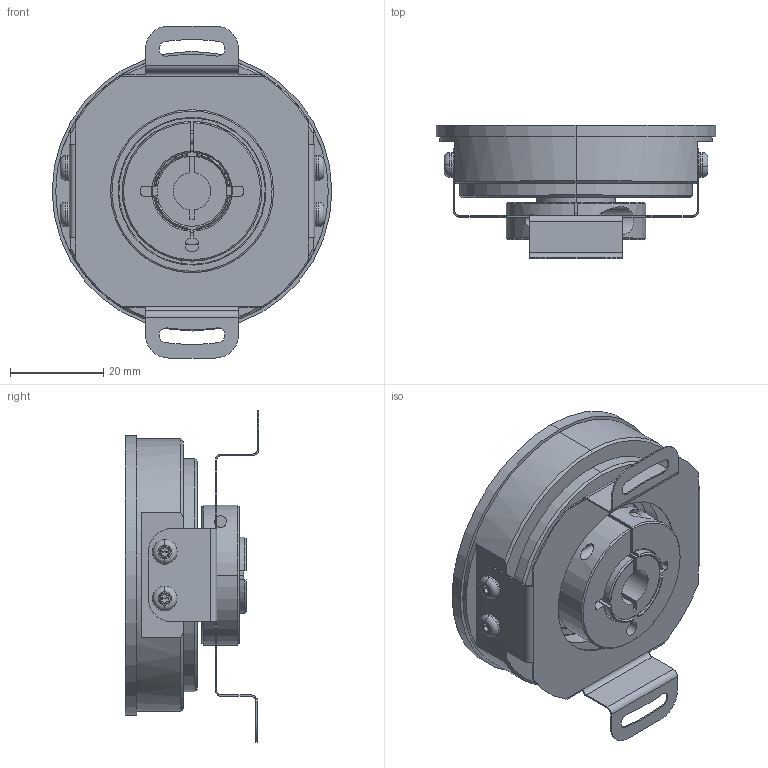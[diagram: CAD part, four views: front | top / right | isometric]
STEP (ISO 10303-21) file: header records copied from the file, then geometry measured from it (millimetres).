
FILE_DESCRIPTION (( 'STEP AP214' ), '1' );
FILE_NAME ('OCD-B08V-C5Y-N.STEP', '2013-03-08T11:28:31', ( '' ), ( '' ), 'SwSTEP 2.0', 'SolidWorks 2006104', '' );
FILE_SCHEMA (( 'AUTOMOTIVE_DESIGN' ));
Length unit declared in the file: millimetre
Products named in the file (1): OCD-B08V-C5Y-N
Bounding box: 60 x 28.73 x 71.24 mm (x, y, z)
Surface area: 25004.1 mm2 (no closed solid volume)
Topology: 0 solids, 17 shells, 589 faces, 1477 edges, 927 vertices
Faces by surface type: cylinder 201, plane 163, cone 151, torus 70, bspline 4
Entity records: 25660 total; most frequent: CARTESIAN_POINT 4777, DIRECTION 3222, ORIENTED_EDGE 2898, EDGE_CURVE 1457, AXIS2_PLACEMENT_3D 1367, VERTEX_POINT 927, CIRCLE 781, EDGE_LOOP 648
